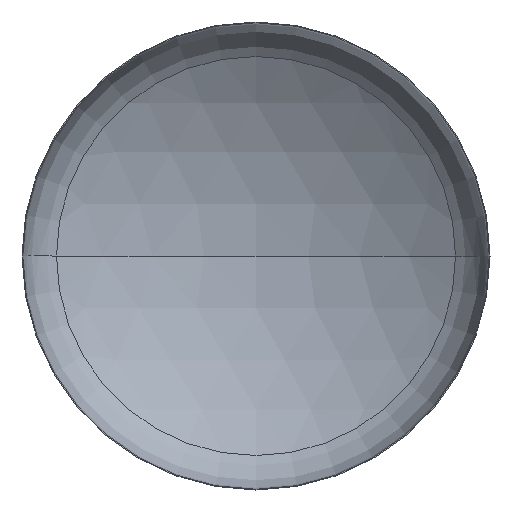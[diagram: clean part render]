
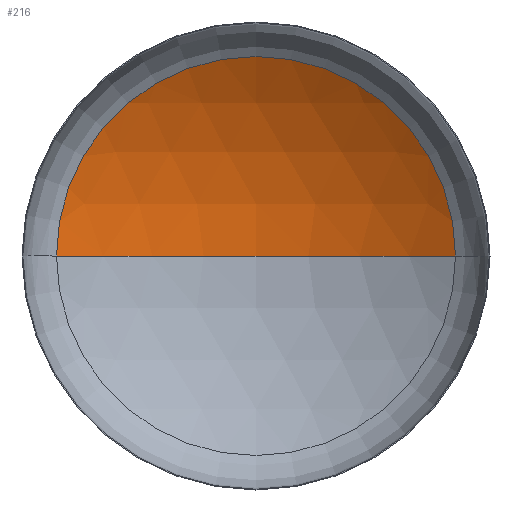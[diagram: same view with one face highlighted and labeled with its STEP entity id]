
A CAD part, front view. The second image highlights one B-rep face of the part: STEP entity #216.
In plain terms, the highlighted spherical face has radius 4800 mm.
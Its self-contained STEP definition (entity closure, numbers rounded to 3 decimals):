
#5 = VERTEX_POINT ( 'NONE', #106 ) ;
#9 = CARTESIAN_POINT ( 'NONE',  ( 0., -3248.933, 0. ) ) ;
#20 = ORIENTED_EDGE ( 'NONE', *, *, #158, .F. ) ;
#23 = DIRECTION ( 'NONE',  ( 1., 0., 0. ) ) ;
#26 = DIRECTION ( 'NONE',  ( 0., 0., 1. ) ) ;
#32 = DIRECTION ( 'NONE',  ( 0., -1., 0. ) ) ;
#36 = AXIS2_PLACEMENT_3D ( 'NONE', #389, #408, #268 ) ;
#40 = CARTESIAN_POINT ( 'NONE',  ( 0., 812.713, 0. ) ) ;
#47 = DIRECTION ( 'NONE',  ( -1., 0., 0. ) ) ;
#63 = VERTEX_POINT ( 'NONE', #104 ) ;
#65 = AXIS2_PLACEMENT_3D ( 'NONE', #9, #26, #23 ) ;
#66 = DIRECTION ( 'NONE',  ( 0., 0., -1. ) ) ;
#67 = AXIS2_PLACEMENT_3D ( 'NONE', #79, #66, #47 ) ;
#71 = AXIS2_PLACEMENT_3D ( 'NONE', #40, #32, #96 ) ;
#75 = FACE_OUTER_BOUND ( 'NONE', #174, .T. ) ;
#79 = CARTESIAN_POINT ( 'NONE',  ( 0., -3248.933, 0. ) ) ;
#96 = DIRECTION ( 'NONE',  ( 1., 0., 0. ) ) ;
#104 = CARTESIAN_POINT ( 'NONE',  ( 2557.935, 812.713, 0. ) ) ;
#106 = CARTESIAN_POINT ( 'NONE',  ( 0., 1551.067, 0. ) ) ;
#144 = EDGE_CURVE ( 'NONE', #63, #171, #281, .T. ) ;
#154 = EDGE_CURVE ( 'NONE', #5, #63, #409, .T. ) ;
#158 = EDGE_CURVE ( 'NONE', #5, #171, #402, .T. ) ;
#168 = ORIENTED_EDGE ( 'NONE', *, *, #144, .T. ) ;
#171 = VERTEX_POINT ( 'NONE', #195 ) ;
#174 = EDGE_LOOP ( 'NONE', ( #20, #203, #168 ) ) ;
#195 = CARTESIAN_POINT ( 'NONE',  ( -2557.935, 812.713, 0. ) ) ;
#203 = ORIENTED_EDGE ( 'NONE', *, *, #154, .T. ) ;
#216 = ADVANCED_FACE ( 'NONE', ( #75 ), #324, .F. ) ;
#268 = DIRECTION ( 'NONE',  ( -1., 0., 0. ) ) ;
#281 = CIRCLE ( 'NONE', #71, 2557.935 ) ;
#324 = SPHERICAL_SURFACE ( 'NONE', #36, 4800. ) ;
#389 = CARTESIAN_POINT ( 'NONE',  ( 0., -3248.933, 0. ) ) ;
#402 = CIRCLE ( 'NONE', #65, 4800. ) ;
#408 = DIRECTION ( 'NONE',  ( 0., 0., -1. ) ) ;
#409 = CIRCLE ( 'NONE', #67, 4800. ) ;
